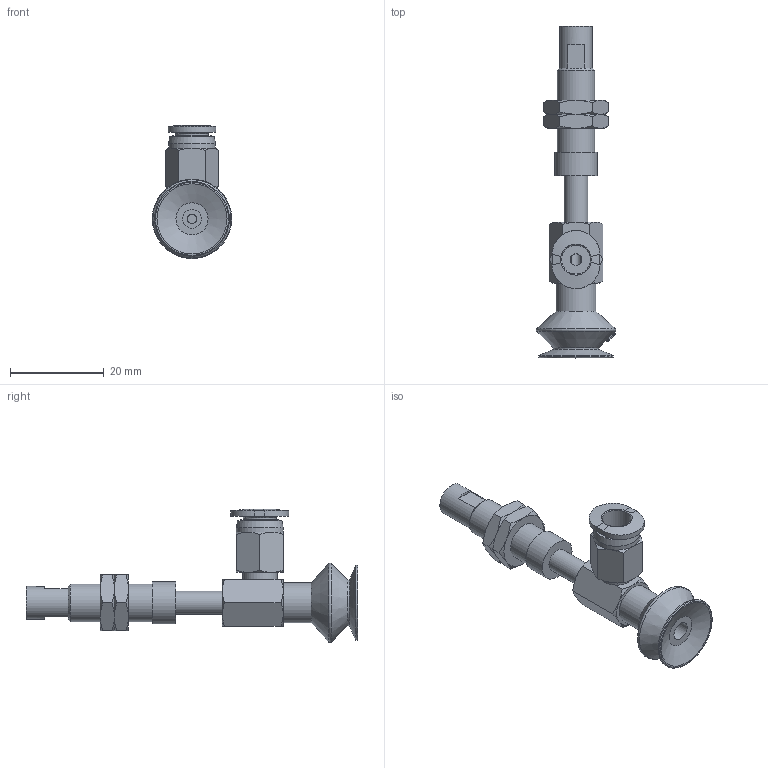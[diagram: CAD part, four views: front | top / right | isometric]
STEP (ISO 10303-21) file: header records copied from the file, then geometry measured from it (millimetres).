
FILE_DESCRIPTION(('STEP AP203'),'1');
FILE_NAME('-O.stp','2025-04-02T00:18:53',(' '),(' '),'Spatial InterOp 3D',' ',' ');
FILE_SCHEMA(('CONFIG_CONTROL_DESIGN'));
Length unit declared in the file: millimetre
Products named in the file (9): BNABPBYS-15A-10-※-O; CONNECTOR-15A-10-PB; Nut-15A-S-PB; NAPBTS-15A-10--F; NAPBTS-15A-10--M; BPBG-15A-※; __27; BPBG-15A; PC-C_06-M5
Assembly tree (9 placements, depth 3):
  BNABPBYS-15A-10-※-O
    CONNECTOR-15A-10-PB
    Nut-15A-S-PB  x2
    NAPBTS-15A-10--F
    NAPBTS-15A-10--M
    BPBG-15A-※
      __27
      BPBG-15A
    PC-C_06-M5
Bounding box: 17 x 71 x 28.48 mm (x, y, z)
Volume: 4593.2 mm3; surface area: 6068.8 mm2
Topology: 7 solids, 10 shells, 195 faces, 410 edges, 250 vertices
Faces by surface type: cone 71, plane 69, cylinder 27, torus 13, bspline 12, revolution 3
Full cylindrical faces by diameter (mm): 2 x1, 4 x5, 4.134 x2, 5 x4, 6 x2, 7 x2, 7.188 x2, 7.4 x1, 8 x1, 8.2 x1, 8.5 x1, 9 x1, 10 x1, 16 x1
Entity records: 6237 total; most frequent: CARTESIAN_POINT 2562, DIRECTION 656, ORIENTED_EDGE 582, AXIS2_PLACEMENT_3D 294, EDGE_CURVE 293, EDGE_LOOP 255, VERTEX_POINT 208, FACE_OUTER_BOUND 149
